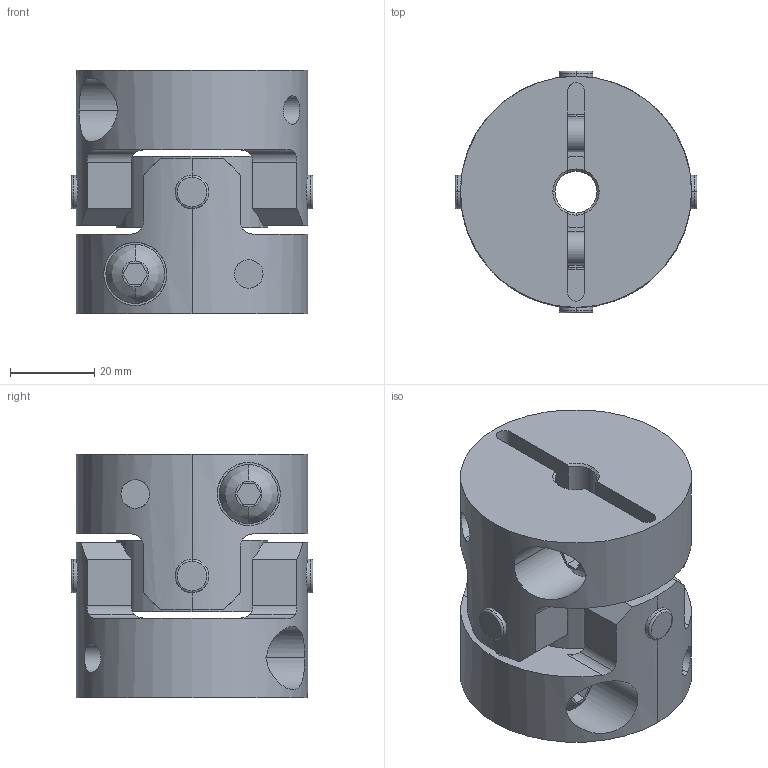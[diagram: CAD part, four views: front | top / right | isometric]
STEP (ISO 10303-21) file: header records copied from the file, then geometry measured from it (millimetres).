
FILE_DESCRIPTION((''),'2;1');
FILE_NAME('UA-55C-10×10.stp','2013-05-22T11:49:13',(''),(''),'AutoCAD STEP 2000i','AutoCAD 2000i',', , ');
FILE_SCHEMA(('CONFIG_CONTROL_DESIGN'));
Length unit declared in the file: millimetre
Products named in the file (6): UA-55C-10×10; 忣兜1; UA-5502-D10-1; BTN-M8; UA-5502-D10; UA55-SEN
Assembly tree (6 placements, depth 3):
  UA-55C-10×10
    忣兜1
    UA-5502-D10-1
      BTN-M8
    UA-5502-D10
      BTN-M8
    UA55-SEN
Bounding box: 57.55 x 57.55 x 58 mm (x, y, z)
Volume: 101873.8 mm3; surface area: 31922.3 mm2
Topology: 1 solids, 1 shells, 206 faces, 554 edges, 364 vertices
Faces by surface type: cylinder 96, plane 78, cone 16, bspline 8, torus 8
Entity records: 8383 total; most frequent: CARTESIAN_POINT 3067, ORIENTED_EDGE 1108, DIRECTION 1064, EDGE_CURVE 554, AXIS2_PLACEMENT_3D 409, VERTEX_POINT 364, VECTOR 246, LINE 246
